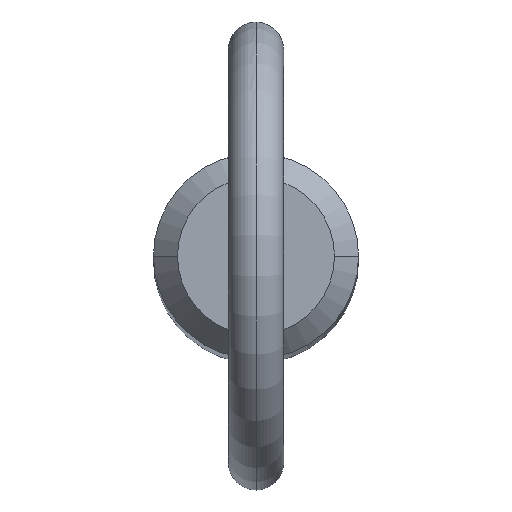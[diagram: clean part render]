
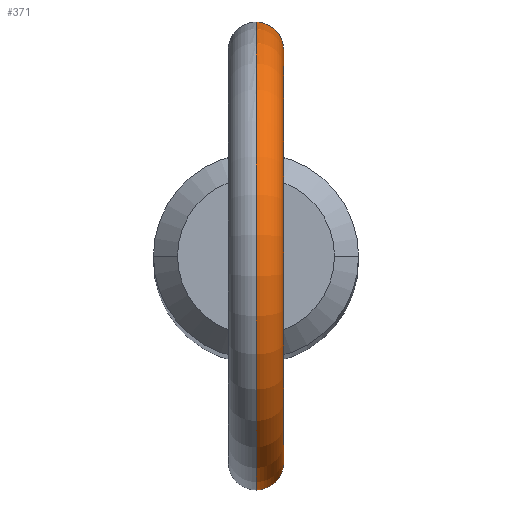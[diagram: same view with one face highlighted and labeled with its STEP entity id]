
A CAD part, top view. The second image highlights one B-rep face of the part: STEP entity #371.
In plain terms, the highlighted toroidal (fillet/blend) face has major radius 11.2 mm and minor radius 1.5 mm.
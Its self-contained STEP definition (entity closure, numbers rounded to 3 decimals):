
#4 = FACE_OUTER_BOUND ( 'NONE', #482, .T. ) ;
#13 = CARTESIAN_POINT ( 'NONE',  ( 0.419, 5.535, 125.832 ) ) ;
#22 = CARTESIAN_POINT ( 'NONE',  ( 0.213, -5.547, 125.788 ) ) ;
#26 = CARTESIAN_POINT ( 'NONE',  ( 1.5, -5.343, 127.254 ) ) ;
#30 = CARTESIAN_POINT ( 'NONE',  ( 0.107, -5.55, 125.777 ) ) ;
#43 = VERTEX_POINT ( 'NONE', #479 ) ;
#49 = CARTESIAN_POINT ( 'NONE',  ( 0.522, 5.526, 125.865 ) ) ;
#50 = CARTESIAN_POINT ( 'NONE',  ( 0., 5.55, 129.245 ) ) ;
#59 = CARTESIAN_POINT ( 'NONE',  ( 1.477, -5.35, 127.044 ) ) ;
#77 = B_SPLINE_CURVE_WITH_KNOTS ( 'NONE', 3,
 ( #424, #181, #508, #13, #49, #459, #218, #96, #137, #458, #504, #175, #376, #337, #253, #503, #172, #88, #299, #333, #255, #94, #91, #50 ),
 .UNSPECIFIED., .F., .F.,
 ( 4, 2, 2, 2, 2, 2, 2, 2, 2, 2, 2, 4 ),
 ( 0.001, 0.001, 0.001, 0.002, 0.002, 0.002, 0.003, 0.004, 0.004, 0.005, 0.005, 0.006 ),
 .UNSPECIFIED. ) ;
#81 = DIRECTION ( 'NONE',  ( 1., 0., 0. ) ) ;
#88 = CARTESIAN_POINT ( 'NONE',  ( 1.003, 5.459, 128.725 ) ) ;
#91 = CARTESIAN_POINT ( 'NONE',  ( 0.213, 5.55, 129.245 ) ) ;
#94 = CARTESIAN_POINT ( 'NONE',  ( 0.422, 5.537, 129.178 ) ) ;
#96 = CARTESIAN_POINT ( 'NONE',  ( 1.19, 5.421, 126.362 ) ) ;
#104 = CARTESIAN_POINT ( 'NONE',  ( 1.26, -5.407, 126.443 ) ) ;
#111 = CARTESIAN_POINT ( 'NONE',  ( 0.786, -5.497, 128.957 ) ) ;
#123 = DIRECTION ( 'NONE',  ( 0., 0., -1. ) ) ;
#125 = DIRECTION ( 'NONE',  ( 0., 0., -1. ) ) ;
#127 = AXIS2_PLACEMENT_3D ( 'NONE', #128, #81, #125 ) ;
#128 = CARTESIAN_POINT ( 'NONE',  ( 0., 0., 137.2 ) ) ;
#137 = CARTESIAN_POINT ( 'NONE',  ( 1.251, 5.407, 126.45 ) ) ;
#142 = DIRECTION ( 'NONE',  ( 0., 0., -1. ) ) ;
#145 = CARTESIAN_POINT ( 'NONE',  ( 0.807, -5.492, 126.006 ) ) ;
#147 = DIRECTION ( 'NONE',  ( 1., 0., 0. ) ) ;
#149 = CARTESIAN_POINT ( 'NONE',  ( 1.44, -5.36, 127.886 ) ) ;
#172 = CARTESIAN_POINT ( 'NONE',  ( 1.194, 5.422, 128.472 ) ) ;
#175 = CARTESIAN_POINT ( 'NONE',  ( 1.486, 5.348, 127.038 ) ) ;
#181 = CARTESIAN_POINT ( 'NONE',  ( 0.107, 5.55, 125.777 ) ) ;
#182 = CARTESIAN_POINT ( 'NONE',  ( 0.977, -5.464, 126.132 ) ) ;
#185 = CARTESIAN_POINT ( 'NONE',  ( 0., -5.55, 125.777 ) ) ;
#187 = CARTESIAN_POINT ( 'NONE',  ( 1.486, -5.347, 127.674 ) ) ;
#210 = CARTESIAN_POINT ( 'NONE',  ( 0., -5.55, 125.777 ) ) ;
#212 = CIRCLE ( 'NONE', #283, 12.7 ) ;
#215 = CARTESIAN_POINT ( 'NONE',  ( 0., 5.55, 125.777 ) ) ;
#218 = CARTESIAN_POINT ( 'NONE',  ( 0.984, 5.464, 126.124 ) ) ;
#221 = ORIENTED_EDGE ( 'NONE', *, *, #437, .F. ) ;
#222 = CARTESIAN_POINT ( 'NONE',  ( 1.295, -5.397, 128.282 ) ) ;
#226 = EDGE_CURVE ( 'NONE', #502, #364, #451, .T. ) ;
#230 = ORIENTED_EDGE ( 'NONE', *, *, #256, .F. ) ;
#253 = CARTESIAN_POINT ( 'NONE',  ( 1.44, 5.36, 127.888 ) ) ;
#255 = CARTESIAN_POINT ( 'NONE',  ( 0.694, 5.507, 129.014 ) ) ;
#256 = EDGE_CURVE ( 'NONE', #43, #502, #426, .T. ) ;
#267 = CARTESIAN_POINT ( 'NONE',  ( 0.417, -5.535, 129.167 ) ) ;
#270 = CARTESIAN_POINT ( 'NONE',  ( 0.941, -5.471, 128.807 ) ) ;
#272 = CARTESIAN_POINT ( 'NONE',  ( 0.716, -5.504, 125.952 ) ) ;
#283 = AXIS2_PLACEMENT_3D ( 'NONE', #413, #332, #123 ) ;
#299 = CARTESIAN_POINT ( 'NONE',  ( 0.933, 5.472, 128.804 ) ) ;
#310 = CARTESIAN_POINT ( 'NONE',  ( 0.106, -5.55, 129.245 ) ) ;
#311 = CARTESIAN_POINT ( 'NONE',  ( 1.363, -5.38, 126.634 ) ) ;
#332 = DIRECTION ( 'NONE',  ( 1., 0., 0. ) ) ;
#333 = CARTESIAN_POINT ( 'NONE',  ( 0.779, 5.496, 128.948 ) ) ;
#337 = CARTESIAN_POINT ( 'NONE',  ( 1.485, 5.348, 127.678 ) ) ;
#345 = CARTESIAN_POINT ( 'NONE',  ( 1.503, -5.343, 127.359 ) ) ;
#349 = CARTESIAN_POINT ( 'NONE',  ( 0.515, -5.527, 129.122 ) ) ;
#352 = CARTESIAN_POINT ( 'NONE',  ( 0.421, -5.535, 125.832 ) ) ;
#358 = ORIENTED_EDGE ( 'NONE', *, *, #375, .T. ) ;
#364 = VERTEX_POINT ( 'NONE', #210 ) ;
#371 = ADVANCED_FACE ( 'NONE', ( #4 ), #478, .T. ) ;
#375 = EDGE_CURVE ( 'NONE', #507, #364, #212, .T. ) ;
#376 = CARTESIAN_POINT ( 'NONE',  ( 1.509, 5.341, 127.253 ) ) ;
#387 = CARTESIAN_POINT ( 'NONE',  ( 0.523, -5.526, 125.866 ) ) ;
#394 = CARTESIAN_POINT ( 'NONE',  ( 1.194, -5.422, 128.471 ) ) ;
#413 = CARTESIAN_POINT ( 'NONE',  ( 0., 0., 137.2 ) ) ;
#424 = CARTESIAN_POINT ( 'NONE',  ( 0., 5.55, 125.777 ) ) ;
#425 = CARTESIAN_POINT ( 'NONE',  ( 0., -5.55, 129.245 ) ) ;
#426 = CIRCLE ( 'NONE', #491, 9.7 ) ;
#433 = CARTESIAN_POINT ( 'NONE',  ( 0., 0., 137.2 ) ) ;
#434 = CARTESIAN_POINT ( 'NONE',  ( 0.214, -5.547, 129.228 ) ) ;
#437 = EDGE_CURVE ( 'NONE', #507, #43, #77, .T. ) ;
#441 = ORIENTED_EDGE ( 'NONE', *, *, #226, .F. ) ;
#451 = B_SPLINE_CURVE_WITH_KNOTS ( 'NONE', 3,
 ( #513, #310, #434, #267, #349, #111, #270, #394, #222, #149, #187, #345, #26, #59, #509, #311, #104, #470, #182, #145, #272, #387, #352, #22, #30, #185 ),
 .UNSPECIFIED., .F., .F.,
 ( 4, 2, 2, 2, 2, 2, 2, 2, 2, 2, 2, 2, 4 ),
 ( 0.005, 0.005, 0.005, 0.006, 0.006, 0.007, 0.007, 0.008, 0.008, 0.009, 0.009, 0.009, 0.01 ),
 .UNSPECIFIED. ) ;
#458 = CARTESIAN_POINT ( 'NONE',  ( 1.352, 5.383, 126.635 ) ) ;
#459 = CARTESIAN_POINT ( 'NONE',  ( 0.81, 5.494, 125.995 ) ) ;
#470 = CARTESIAN_POINT ( 'NONE',  ( 1.055, -5.449, 126.205 ) ) ;
#478 = TOROIDAL_SURFACE ( 'NONE', #127, 11.2, 1.5 ) ;
#479 = CARTESIAN_POINT ( 'NONE',  ( 0., 5.55, 129.245 ) ) ;
#482 = EDGE_LOOP ( 'NONE', ( #221, #358, #441, #230 ) ) ;
#491 = AXIS2_PLACEMENT_3D ( 'NONE', #433, #147, #142 ) ;
#502 = VERTEX_POINT ( 'NONE', #425 ) ;
#503 = CARTESIAN_POINT ( 'NONE',  ( 1.294, 5.398, 128.285 ) ) ;
#504 = CARTESIAN_POINT ( 'NONE',  ( 1.393, 5.372, 126.733 ) ) ;
#507 = VERTEX_POINT ( 'NONE', #215 ) ;
#508 = CARTESIAN_POINT ( 'NONE',  ( 0.212, 5.547, 125.788 ) ) ;
#509 = CARTESIAN_POINT ( 'NONE',  ( 1.455, -5.356, 126.938 ) ) ;
#513 = CARTESIAN_POINT ( 'NONE',  ( 0., -5.55, 129.245 ) ) ;
